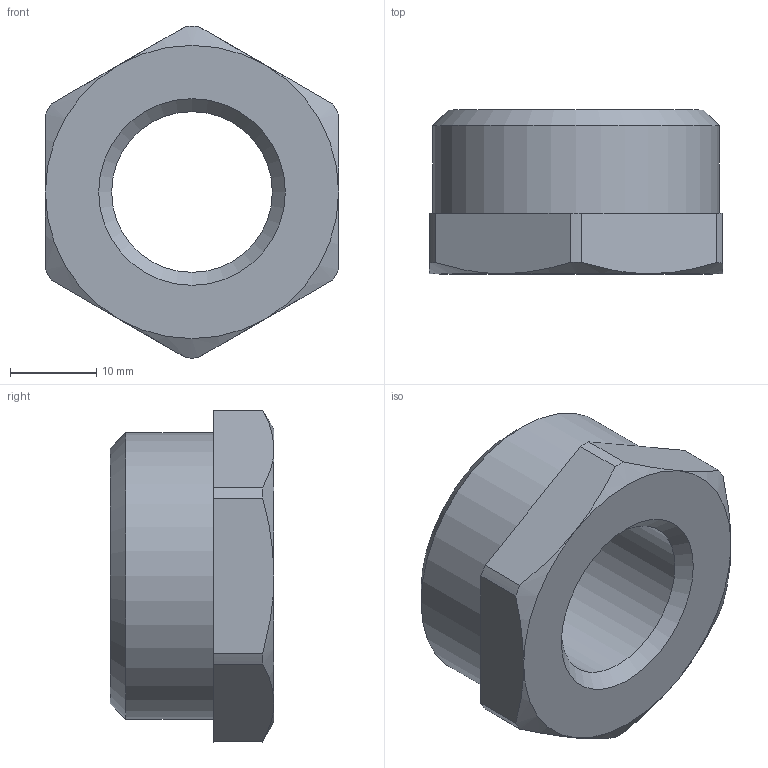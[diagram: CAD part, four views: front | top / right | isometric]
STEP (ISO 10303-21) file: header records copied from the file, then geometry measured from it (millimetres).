
FILE_DESCRIPTION(('STEP AP203'), '1');
FILE_NAME('ÂÐ.753128.030 - VTr.581.N.0604 Ôèò. ðåçüá', '2024-07-04T08:54:40', ('Boss'), (''), 'C3D Converter', 'C3D Toolkit', '');
FILE_SCHEMA(('CONFIG_CONTROL_DESIGN'));
Length unit declared in the file: millimetre
Products named in the file (1): ВР.753128.030
Bounding box: 34 x 19 x 38.5 mm (x, y, z)
Volume: 11893.4 mm3; surface area: 4379.3 mm2
Topology: 1 solids, 1 shells, 26 faces, 60 edges, 37 vertices
Faces by surface type: plane 9, cone 9, cylinder 8
Full cylindrical faces by diameter (mm): 18.632 x1, 33.249 x1
Entity records: 1053 total; most frequent: CARTESIAN_POINT 487, DIRECTION 114, ORIENTED_EDGE 102, EDGE_CURVE 51, AXIS2_PLACEMENT_3D 48, VERTEX_POINT 35, EDGE_LOOP 32, ADVANCED_FACE 24
